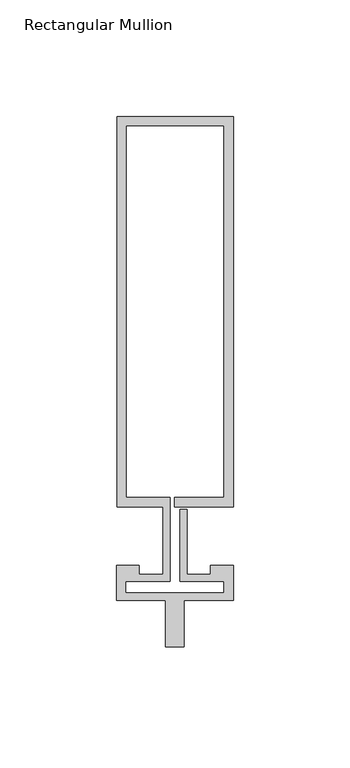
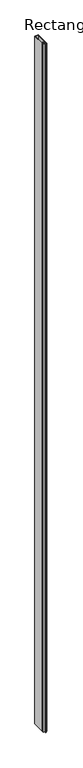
"""IFC4 building model written with IfcOpenShell, lengths in millimetres: member geometry, Rectangular Mullion : Reynaers_CW-50_Mullion-Transom_Vertical_167.5mm_Facecap-06A."""

from ifc_helpers import new_model, si_unit, frame, origin, place, context, project, spatial, polyline, outline, extrude, source, transform, mapped, element, save


def rectangular_mullion_229a14fd(model_context):
    return source(origin(), model_context, "Body", "SweptSolid", [
        extrude(outline(polyline([(-24.8004059, 180.0), (25.1995941, 180.0), (25.1995941, 12.5), (0.0, 12.5), (0.0, 16.5), (21.1995941, 16.5), (21.1995941, 176.0), (-20.8004059, 176.0), (-20.8004059, 16.5), (-1.9004059, 16.5), (-1.9004059, -19.5), (-20.994845, -19.5), (-20.994845, -24.4191338), (21.1995941, -24.4191338), (21.1995941, -19.5), (2.2995941, -19.5), (2.2995941, 11.5), (5.2995941, 11.5), (5.2995941, -16.5), (15.2996495, -16.5), (15.2996495, -12.5), (25.1995941, -12.5), (25.1995941, -27.5), (4.004855, -27.5), (4.004855, -47.5), (-3.995145, -47.5), (-3.995145, -27.5), (-24.994845, -27.5), (-24.994845, -12.5), (-15.2996495, -12.5), (-15.2996495, -16.5), (-4.9004059, -16.5), (-4.9004059, 12.5), (-24.8004059, 12.5), (-24.8004059, 180.0)])), frame((0.0, 0.0, -10400.0), z_axis=(0.0, 0.0, 1.0), x_axis=(1.0, 0.0, 0.0)), (0.0, 0.0, 1.0), 10400.0),
    ])


if __name__ == "__main__":
    model = new_model("IFC4")
    model_context = context("Model", 3, world=origin())
    ifc_project = project(units=[si_unit("LENGTHUNIT", "METRE", prefix="MILLI")], contexts=[model_context])
    site = spatial("IfcSite", under=ifc_project)
    building = spatial("IfcBuilding", under=site)
    placement = place(None, origin())
    rectangular_mullion_shape = rectangular_mullion_229a14fd(model_context)
    element("IfcMember", 1, ObjectType="Rectangular Mullion : Reynaers_CW-50_Mullion-Transom_Vertical_167.5mm_Facecap-06A", at=placement, inside=building, context=model_context, shape_type="MappedRepresentation", body=[
        mapped(rectangular_mullion_shape, transform((0.0, 0.0, 0.0), x_axis=(1.0, 0.0, 0.0), y_axis=(0.0, 1.0, 0.0), z_axis=(0.0, 0.0, 1.0))),
    ])
    save(model, "model.ifc")
